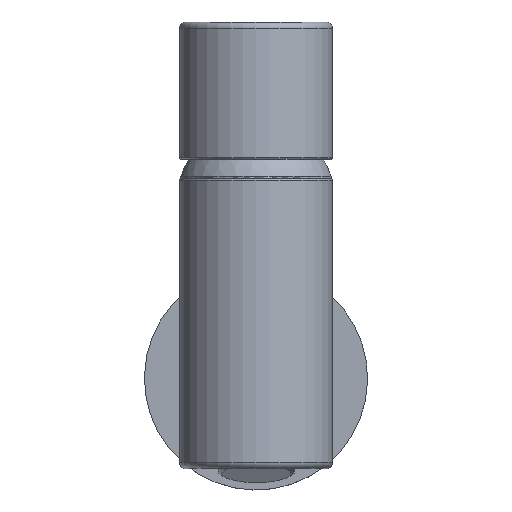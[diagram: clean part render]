
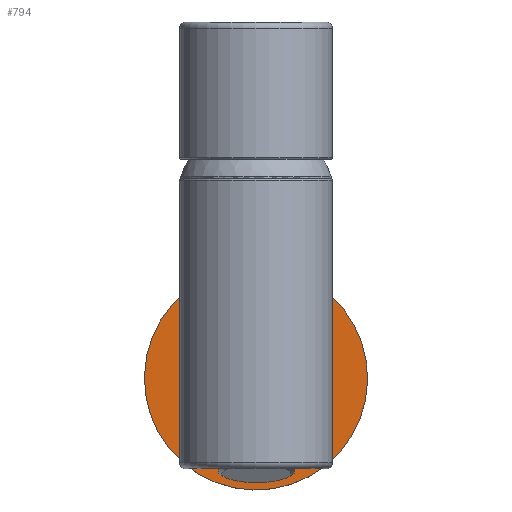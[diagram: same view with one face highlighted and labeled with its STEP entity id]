
A CAD part, top view. The second image highlights one B-rep face of the part: STEP entity #794.
In plain terms, the highlighted planar face has unit normal (0, 0, 1).
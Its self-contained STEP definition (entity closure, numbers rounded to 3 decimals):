
#93 = CARTESIAN_POINT ( 'NONE',  ( 19., 0., 10. ) ) ;
#96 = CARTESIAN_POINT ( 'NONE',  ( 32.554, -12.854, 10. ) ) ;
#284 = DIRECTION ( 'NONE',  ( 1., 0., 0. ) ) ;
#285 = DIRECTION ( 'NONE',  ( 0., 0., 1. ) ) ;
#286 = CARTESIAN_POINT ( 'NONE',  ( 0., 0., 10. ) ) ;
#409 = DIRECTION ( 'NONE',  ( 0.93, -0.367, 0. ) ) ;
#410 = DIRECTION ( 'NONE',  ( 0., 0., -1. ) ) ;
#411 = CARTESIAN_POINT ( 'NONE',  ( 0., 0., 10. ) ) ;
#414 = EDGE_LOOP ( 'NONE', ( #1063 ) ) ;
#548 = DIRECTION ( 'NONE',  ( 0., 0., 1. ) ) ;
#558 = VERTEX_POINT ( 'NONE', #93 ) ;
#573 = DIRECTION ( 'NONE',  ( -0.93, 0.367, 0. ) ) ;
#716 = PLANE ( 'NONE',  #908 ) ;
#753 = VERTEX_POINT ( 'NONE', #96 ) ;
#791 = CARTESIAN_POINT ( 'NONE',  ( 0., 0., 10. ) ) ;
#794 = ADVANCED_FACE ( 'NONE', ( #1160, #893 ), #716, .T. ) ;
#893 = FACE_OUTER_BOUND ( 'NONE', #414, .T. ) ;
#908 = AXIS2_PLACEMENT_3D ( 'NONE', #791, #548, #573 ) ;
#917 = AXIS2_PLACEMENT_3D ( 'NONE', #286, #285, #284 ) ;
#952 = CIRCLE ( 'NONE', #917, 19. ) ;
#966 = EDGE_LOOP ( 'NONE', ( #981 ) ) ;
#972 = CIRCLE ( 'NONE', #997, 35. ) ;
#981 = ORIENTED_EDGE ( 'NONE', *, *, #1082, .F. ) ;
#997 = AXIS2_PLACEMENT_3D ( 'NONE', #411, #410, #409 ) ;
#1040 = EDGE_CURVE ( 'NONE', #753, #753, #972, .T. ) ;
#1063 = ORIENTED_EDGE ( 'NONE', *, *, #1040, .F. ) ;
#1082 = EDGE_CURVE ( 'NONE', #558, #558, #952, .T. ) ;
#1160 = FACE_BOUND ( 'NONE', #966, .T. ) ;
